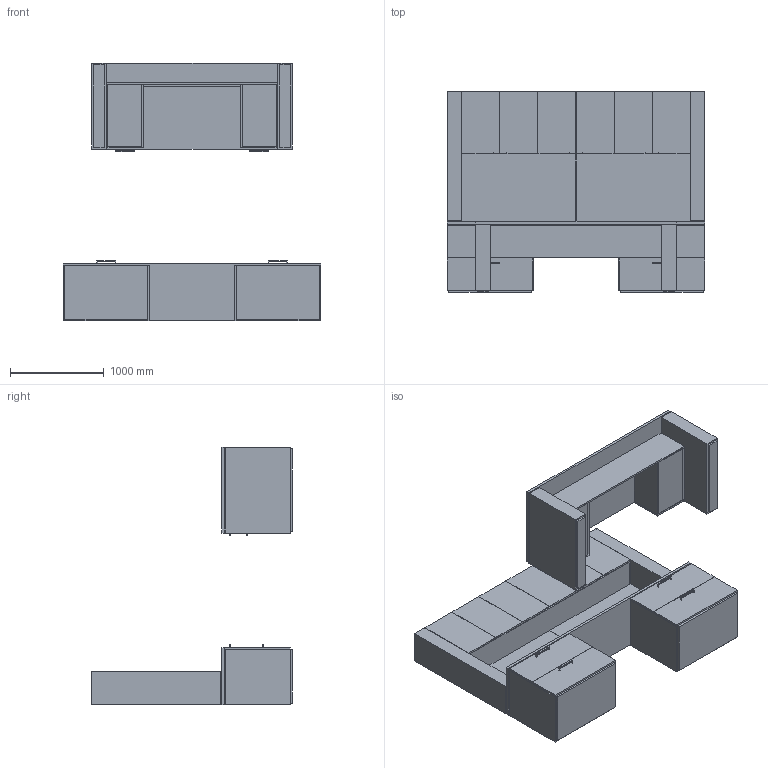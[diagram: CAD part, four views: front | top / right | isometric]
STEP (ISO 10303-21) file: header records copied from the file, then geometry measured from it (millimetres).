
FILE_DESCRIPTION(/* description */ ('','CAx-IF Rec.Pracs.---Representation and Presentation of Product Manufacturing Information (PMI)---4.0---2014-10-13'),/* implementation_level */ '2;1');
FILE_NAME(/* name */ 'BASYS^PO4.stp',/* time_stamp */ '2024-12-05T17:33:16-05:00',/* author */ ('mbowman'),/* organization */ (''),/* preprocessor_version */ 'ST-DEVELOPER v19.2',/* originating_system */ 'Autodesk Inventor 2023',/* authorisation */ '');
FILE_SCHEMA (('AP242_MANAGED_MODEL_BASED_3D_ENGINEERING_MIM_LF { 1 0 10303 442 1 1 4 }'));
Length unit declared in the file: inch
Products named in the file (7): BASYS^OFFICE 4_STAND ALONE DESK-HIGH RISE COLUMNS; BASYS^OFFICE 4_CREDENZA 3B 29-108 FILE FKF STORAGE; BASYS^OFFICE 4_CREDENZA 3B 29-108 FILE FKF STORAGE_1; BASYS^OFFICE 4_DESK-HALF LTR STORAGE; SCHWINN-BAR PULL 2334.192; BASYS^OFFICE 4_DESK-HALF LTR STORAGE_1; BASYS^OFFICE 4_HIGH RISE-12x55x108-6 DOORS
Assembly tree (12 placements, depth 3):
  BASYS^OFFICE 4_STAND ALONE DESK-HIGH RISE COLUMNS
    BASYS^OFFICE 4_CREDENZA 3B 29-108 FILE FKF STORAGE
      BASYS^OFFICE 4_CREDENZA 3B 29-108 FILE FKF STORAGE_1
      SCHWINN-BAR PULL 2334.192  x4
    BASYS^OFFICE 4_DESK-HALF LTR STORAGE
      SCHWINN-BAR PULL 2334.192  x3
      BASYS^OFFICE 4_DESK-HALF LTR STORAGE_1
    BASYS^OFFICE 4_HIGH RISE-12x55x108-6 DOORS
Bounding box: 2743.2 x 2133.6 x 2743.2 mm (x, y, z)
Volume: 591281983.1 mm3; surface area: 58311943.2 mm2
Topology: 73 solids, 73 shells, 520 faces, 1104 edges, 730 vertices
Faces by surface type: plane 496, cylinder 18, sphere 6
Entity records: 14592 total; most frequent: CARTESIAN_POINT 3081, DIRECTION 1986, ORIENTED_EDGE 1920, EDGE_CURVE 960, LINE 924, VECTOR 924, STYLED_ITEM 672, VERTEX_POINT 634
